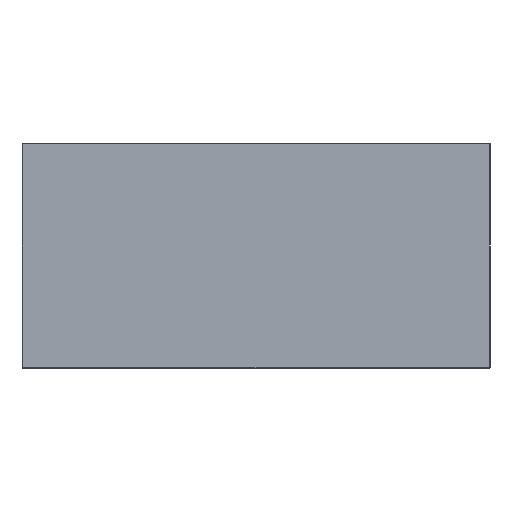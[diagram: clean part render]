
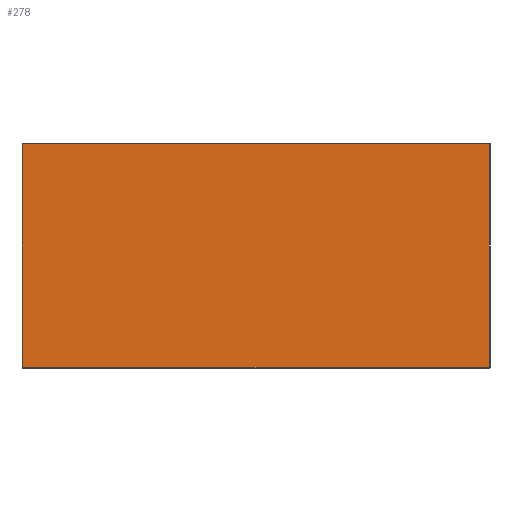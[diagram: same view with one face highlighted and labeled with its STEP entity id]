
A CAD part, front view. The second image highlights one B-rep face of the part: STEP entity #278.
In plain terms, the highlighted planar face has unit normal (0, -1, 0).
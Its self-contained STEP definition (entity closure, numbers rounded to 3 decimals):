
#258=AXIS2_PLACEMENT_3D('Plane Axis2P3D',#255,#256,#257) ;
#41=CARTESIAN_POINT('Vertex',(-998.,-200.,480.)) ;
#46=CARTESIAN_POINT('Line Origine',(-500.,-200.,480.)) ;
#50=CARTESIAN_POINT('Vertex',(-2.,-200.,480.)) ;
#212=CARTESIAN_POINT('Line Origine',(-2.,-200.,240.)) ;
#216=CARTESIAN_POINT('Vertex',(-2.,-200.,2.)) ;
#255=CARTESIAN_POINT('Axis2P3D Location',(0.,-200.,0.)) ;
#260=CARTESIAN_POINT('Line Origine',(-500.,-200.,2.)) ;
#264=CARTESIAN_POINT('Vertex',(-998.,-200.,2.)) ;
#267=CARTESIAN_POINT('Line Origine',(-998.,-200.,241.)) ;
#47=DIRECTION('Vector Direction',(1.,0.,0.)) ;
#213=DIRECTION('Vector Direction',(0.,0.,-1.)) ;
#256=DIRECTION('Axis2P3D Direction',(0.,1.,-0.)) ;
#257=DIRECTION('Axis2P3D XDirection',(-1.,0.,0.)) ;
#261=DIRECTION('Vector Direction',(-1.,0.,0.)) ;
#268=DIRECTION('Vector Direction',(0.,0.,1.)) ;
#48=VECTOR('Line Direction',#47,1.) ;
#214=VECTOR('Line Direction',#213,1.) ;
#262=VECTOR('Line Direction',#261,1.) ;
#269=VECTOR('Line Direction',#268,1.) ;
#273=ORIENTED_EDGE('',*,*,#266,.T.) ;
#274=ORIENTED_EDGE('',*,*,#218,.F.) ;
#275=ORIENTED_EDGE('',*,*,#52,.F.) ;
#276=ORIENTED_EDGE('',*,*,#271,.F.) ;
#278=ADVANCED_FACE('STRUTTURA',(#277),#259,.F.) ;
#52=EDGE_CURVE('',#42,#51,#49,.T.) ;
#218=EDGE_CURVE('',#51,#217,#215,.T.) ;
#266=EDGE_CURVE('',#265,#217,#263,.F.) ;
#271=EDGE_CURVE('',#265,#42,#270,.T.) ;
#272=EDGE_LOOP('',(#273,#274,#275,#276)) ;
#277=FACE_OUTER_BOUND('',#272,.T.) ;
#49=LINE('Line',#46,#48) ;
#215=LINE('Line',#212,#214) ;
#263=LINE('Line',#260,#262) ;
#270=LINE('Line',#267,#269) ;
#259=PLANE('Plane',#258) ;
#42=VERTEX_POINT('',#41) ;
#51=VERTEX_POINT('',#50) ;
#217=VERTEX_POINT('',#216) ;
#265=VERTEX_POINT('',#264) ;
